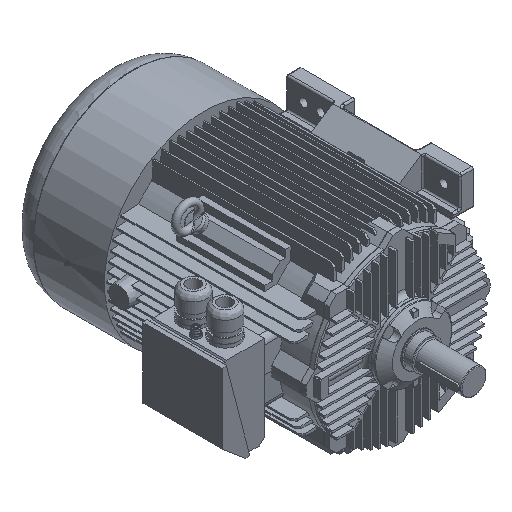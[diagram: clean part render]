
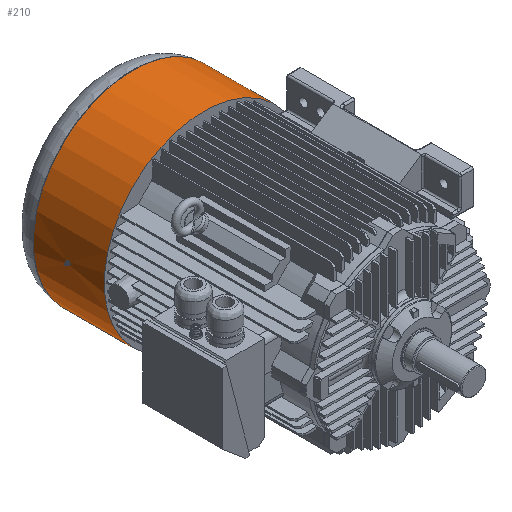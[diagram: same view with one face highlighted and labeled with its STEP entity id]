
A CAD part, isometric view. The second image highlights one B-rep face of the part: STEP entity #210.
In plain terms, the highlighted cylindrical face has radius 298 mm (diameter 596 mm), a partial arc.
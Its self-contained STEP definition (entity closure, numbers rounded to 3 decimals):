
#210 = ADVANCED_FACE( '', ( #1683, #1684 ), #1685, .T. );
#1683 = FACE_OUTER_BOUND( '', #5578, .T. );
#1684 = FACE_BOUND( '', #5579, .T. );
#1685 = CYLINDRICAL_SURFACE( '', #5580, 298. );
#5578 = EDGE_LOOP( '', ( #20071, #20072, #20073, #20074 ) );
#5579 = EDGE_LOOP( '', ( #20075, #20076, #20077, #20078, #20079, #20080 ) );
#5580 = AXIS2_PLACEMENT_3D( '', #20081, #20082, #20083 );
#20071 = ORIENTED_EDGE( '', *, *, #31322, .T. );
#20072 = ORIENTED_EDGE( '', *, *, #31315, .T. );
#20073 = ORIENTED_EDGE( '', *, *, #31079, .F. );
#20074 = ORIENTED_EDGE( '', *, *, #31301, .T. );
#20075 = ORIENTED_EDGE( '', *, *, #31323, .F. );
#20076 = ORIENTED_EDGE( '', *, *, #31324, .F. );
#20077 = ORIENTED_EDGE( '', *, *, #31325, .F. );
#20078 = ORIENTED_EDGE( '', *, *, #31326, .F. );
#20079 = ORIENTED_EDGE( '', *, *, #31327, .F. );
#20080 = ORIENTED_EDGE( '', *, *, #31328, .F. );
#20081 = CARTESIAN_POINT( '', ( 0., 571., 0. ) );
#20082 = DIRECTION( '', ( 0., 1., 0. ) );
#20083 = DIRECTION( '', ( -1., 0., 0. ) );
#31079 = EDGE_CURVE( '', #34821, #34823, #34824, .T. );
#31301 = EDGE_CURVE( '', #34821, #35262, #35264, .F. );
#31315 = EDGE_CURVE( '', #35288, #34823, #35289, .T. );
#31322 = EDGE_CURVE( '', #35262, #35288, #35297, .T. );
#31323 = EDGE_CURVE( '', #35298, #35299, #35300, .T. );
#31324 = EDGE_CURVE( '', #35301, #35298, #35302, .T. );
#31325 = EDGE_CURVE( '', #35303, #35301, #35304, .T. );
#31326 = EDGE_CURVE( '', #35305, #35303, #35306, .T. );
#31327 = EDGE_CURVE( '', #35307, #35305, #35308, .F. );
#31328 = EDGE_CURVE( '', #35299, #35307, #35309, .T. );
#34821 = VERTEX_POINT( '', #40948 );
#34823 = VERTEX_POINT( '', #40950 );
#34824 = CIRCLE( '', #40951, 298. );
#35262 = VERTEX_POINT( '', #41738 );
#35264 = LINE( '', #41740, #41741 );
#35288 = VERTEX_POINT( '', #42007 );
#35289 = LINE( '', #42008, #42009 );
#35297 = CIRCLE( '', #42041, 298. );
#35298 = VERTEX_POINT( '', #42042 );
#35299 = VERTEX_POINT( '', #42043 );
#35300 = ELLIPSE( '', #42044, 344.101, 298. );
#35301 = VERTEX_POINT( '', #42045 );
#35302 = LINE( '', #42046, #42047 );
#35303 = VERTEX_POINT( '', #42048 );
#35304 = ELLIPSE( '', #42049, 344.101, 298. );
#35305 = VERTEX_POINT( '', #42050 );
#35306 = ELLIPSE( '', #42051, 344.101, 298. );
#35307 = VERTEX_POINT( '', #42052 );
#35308 = LINE( '', #42053, #42054 );
#35309 = ELLIPSE( '', #42055, 344.101, 298. );
#40948 = CARTESIAN_POINT( '', ( 267.194, 571., 131.952 ) );
#40950 = CARTESIAN_POINT( '', ( 267.194, 571., -131.952 ) );
#40951 = AXIS2_PLACEMENT_3D( '', #58327, #58328, #58329 );
#41738 = CARTESIAN_POINT( '', ( 267.194, 784., 131.952 ) );
#41740 = CARTESIAN_POINT( '', ( 267.194, 1024.47, 131.952 ) );
#41741 = VECTOR( '', #58694, 1000. );
#42007 = CARTESIAN_POINT( '', ( 267.194, 784., -131.952 ) );
#42008 = CARTESIAN_POINT( '', ( 267.194, 1024.47, -131.952 ) );
#42009 = VECTOR( '', #58708, 1000. );
#42041 = AXIS2_PLACEMENT_3D( '', #58718, #58719, #58720 );
#42042 = CARTESIAN_POINT( '', ( -297.966, 675.243, -4.493 ) );
#42043 = CARTESIAN_POINT( '', ( -298., 672.649, 0. ) );
#42044 = AXIS2_PLACEMENT_3D( '', #58721, #58722, #58723 );
#42045 = CARTESIAN_POINT( '', ( -297.966, 682.757, -4.493 ) );
#42046 = CARTESIAN_POINT( '', ( -297.966, 571., -4.493 ) );
#42047 = VECTOR( '', #58724, 1000. );
#42048 = CARTESIAN_POINT( '', ( -298., 685.351, 0. ) );
#42049 = AXIS2_PLACEMENT_3D( '', #58725, #58726, #58727 );
#42050 = CARTESIAN_POINT( '', ( -297.966, 682.757, 4.493 ) );
#42051 = AXIS2_PLACEMENT_3D( '', #58728, #58729, #58730 );
#42052 = CARTESIAN_POINT( '', ( -297.966, 675.243, 4.493 ) );
#42053 = CARTESIAN_POINT( '', ( -297.966, 571., 4.493 ) );
#42054 = VECTOR( '', #58731, 1000. );
#42055 = AXIS2_PLACEMENT_3D( '', #58732, #58733, #58734 );
#58327 = CARTESIAN_POINT( '', ( 0., 571., 0. ) );
#58328 = DIRECTION( '', ( 0., -1., 0. ) );
#58329 = DIRECTION( '', ( -1., 0., 0. ) );
#58694 = DIRECTION( '', ( 0., -1., 0. ) );
#58708 = DIRECTION( '', ( 0., -1., 0. ) );
#58718 = CARTESIAN_POINT( '', ( 0., 784., 0. ) );
#58719 = DIRECTION( '', ( 0., -1., 0. ) );
#58720 = DIRECTION( '', ( -1., 0., 0. ) );
#58721 = CARTESIAN_POINT( '', ( 0., 672.649, 0. ) );
#58722 = DIRECTION( '', ( 0., 0.866, 0.5 ) );
#58723 = DIRECTION( '', ( 0., -0.5, 0.866 ) );
#58724 = DIRECTION( '', ( 0., -1., 0. ) );
#58725 = CARTESIAN_POINT( '', ( 0., 685.351, 0. ) );
#58726 = DIRECTION( '', ( 0., -0.866, 0.5 ) );
#58727 = DIRECTION( '', ( 0., -0.5, -0.866 ) );
#58728 = CARTESIAN_POINT( '', ( 0., 685.351, 0. ) );
#58729 = DIRECTION( '', ( 0., -0.866, -0.5 ) );
#58730 = DIRECTION( '', ( 0., -0.5, 0.866 ) );
#58731 = DIRECTION( '', ( 0., -1., 0. ) );
#58732 = CARTESIAN_POINT( '', ( 0., 672.649, 0. ) );
#58733 = DIRECTION( '', ( 0., 0.866, -0.5 ) );
#58734 = DIRECTION( '', ( 0., -0.5, -0.866 ) );
